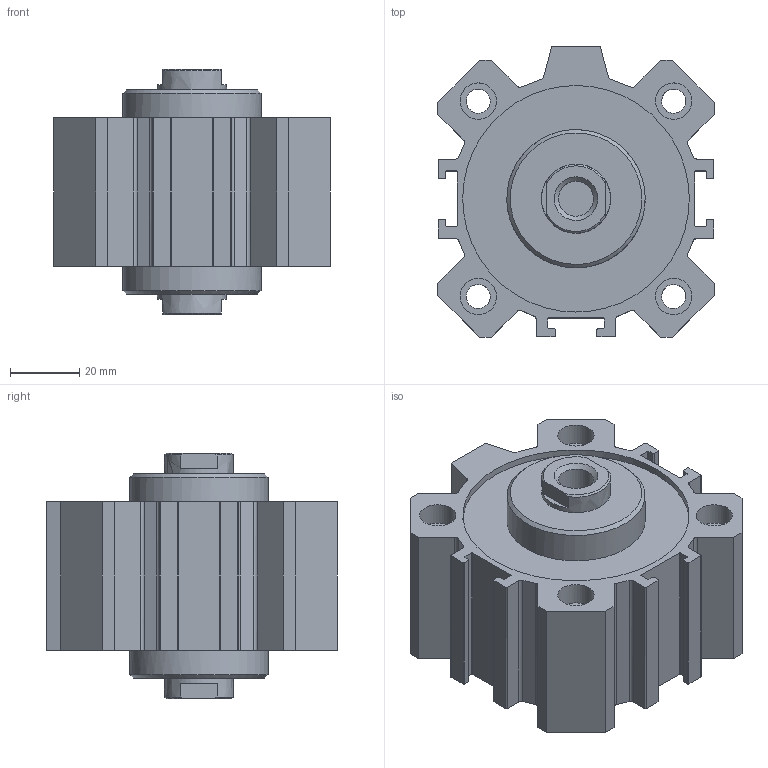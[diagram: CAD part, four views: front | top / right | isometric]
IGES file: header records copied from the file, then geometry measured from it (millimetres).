
Global section: file name: 1514_63_0000; native system: Autodesk Inventor 2014; preprocessor: unknown; author: A. Manieri; date: 20160824.140209; units: millimetre
Bounding box: 80 x 84 x 71 mm (x, y, z)
Volume: 232556.9 mm3; surface area: 60554.5 mm2
Topology: 2 solids, 2 shells, 178 faces, 482 edges, 328 vertices
Faces by surface type: bspline 178
